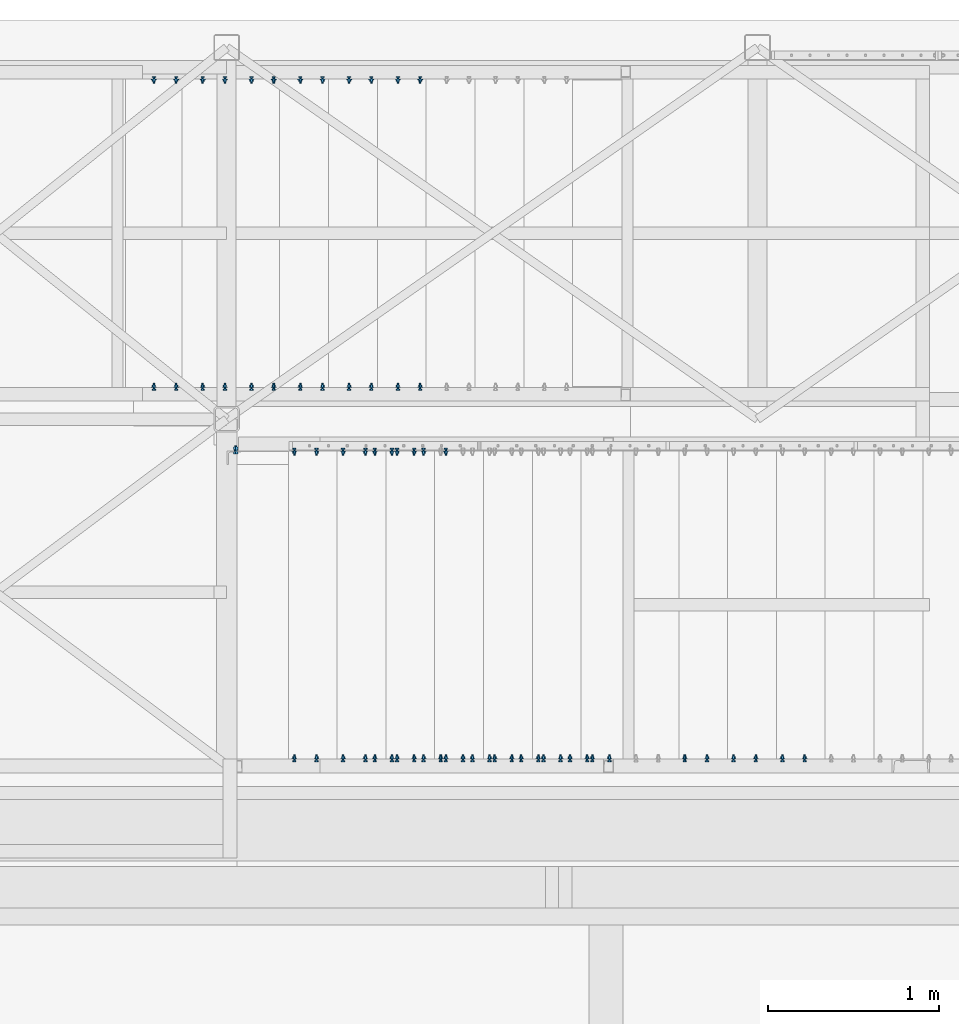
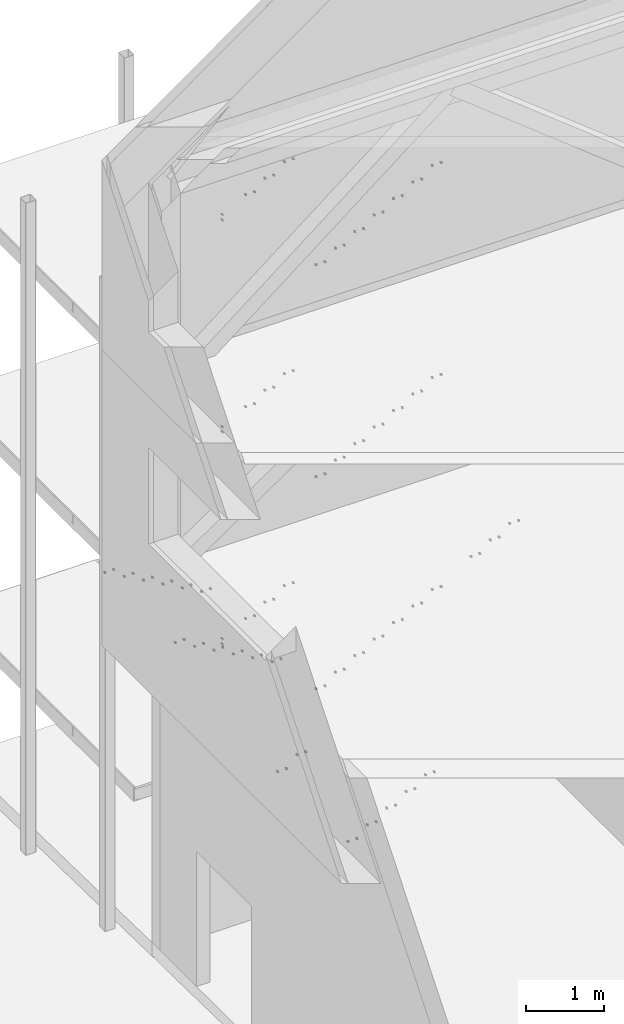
# One storey, part 74 of 78: 55 mechanical fasteners, 10 elements without a shape of their own.
"""IFC2X3 building model written with IfcOpenShell, lengths in millimetres."""

from ifc_helpers import new_model, si_unit, frame, origin_with_axes, origin_2d_with_axis, place, context, subcontext, project, spatial, polyline, circle, outline, extrude, source, transform, mapped, material, type_object, element, aggregate, save


model = new_model("IFC2X3")

# Units and contexts
model_context = context("Model", 3, precision=1e-05, world=origin_with_axes())
body_context = subcontext(model_context, "Body", "Model", "MODEL_VIEW")
ifc_project = project(units=[si_unit("LENGTHUNIT", "METRE", prefix="MILLI"), si_unit("AREAUNIT", "SQUARE_METRE"), si_unit("VOLUMEUNIT", "CUBIC_METRE"), si_unit("MASSUNIT", "GRAM", prefix="KILO"), si_unit("TIMEUNIT", "SECOND"), si_unit("PLANEANGLEUNIT", "RADIAN"), si_unit("SOLIDANGLEUNIT", "STERADIAN"), si_unit("THERMODYNAMICTEMPERATUREUNIT", "DEGREE_CELSIUS"), si_unit("LUMINOUSINTENSITYUNIT", "LUMEN")], contexts=[model_context])

# Site, building, storey
site_placement = place(None, origin_with_axes())
site = spatial("IfcSite", under=ifc_project, at=site_placement, Name="Site", CompositionType="ELEMENT")
building_placement = place(site_placement, origin_with_axes())
building = spatial("IfcBuilding", under=site, at=building_placement, Name="Undefined", CompositionType="ELEMENT")
storey_placement = place(building_placement, origin_with_axes())
storey = spatial("IfcBuildingStorey", under=building, at=storey_placement, Name="Undefined", CompositionType="ELEMENT", Elevation=0.0)

# Assembly, mechanical fastener
assembly_1_placement = place(storey_placement, origin_with_axes())
assembly_1 = element("IfcElementAssembly", 1, at=assembly_1_placement, inside=storey, AssemblyPlace="NOTDEFINED", PredefinedType="RIGID_FRAME")
ifc_material_1 = material(Name="8.8")
mechanical_fastener_type = type_object("IfcMechanicalFastenerType", Name="Bolt assembly")
shared_shape_1 = source(origin_with_axes(), body_context, "Body", "SweptSolid", [
    extrude(circle(Radius=9.0, at=origin_2d_with_axis()), frame((0.0, -7.89999999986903, 0.0), z_axis=(0.0, 1.0, 0.0), x_axis=(1.0, 0.0, 0.0)), (0.0, 0.0, 1.0), 8.0),
    extrude(circle(Radius=9.0, at=origin_2d_with_axis()), frame((0.0, -0.0999999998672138, 0.0), z_axis=(0.0, 1.0, 0.0), x_axis=(1.0, 0.0, 0.0)), (0.0, 0.0, 1.0), 9.1),
    extrude(outline(polyline([(13.85640646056, 0.0), (6.92820323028, 12.0000000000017), (-6.92820323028, 12.0000000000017), (-13.85640646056, 0.0), (-6.92820323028, -12.0000000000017), (6.92820323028, -12.0000000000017), (13.85640646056, 0.0)])), frame((0.0, -17.999999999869, 0.0), z_axis=(0.0, 1.0, 0.0), x_axis=(1.0, 0.0, 0.0)), (0.0, 0.0, 1.0), 10.0),
    extrude(circle(Radius=8.0, at=origin_2d_with_axis()), frame((0.0, -7.99999999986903, 0.0), z_axis=(0.0, 1.0, 0.0), x_axis=(1.0, 0.0, 0.0)), (0.0, 0.0, 1.0), 40.0),
    extrude(outline(polyline([(13.85640646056, 0.0), (6.92820323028, 12.0000000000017), (-6.92820323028, 12.0000000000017), (-13.85640646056, 0.0), (-6.92820323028, -12.0000000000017), (6.92820323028, -12.0000000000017), (13.85640646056, 0.0)])), frame((0.0, 9.0, 0.0), z_axis=(0.0, 1.0, 0.0), x_axis=(1.0, 0.0, 0.0)), (0.0, 0.0, 1.0), 14.8),
])
mechanical_fastener_1_placement = place(assembly_1_placement, frame((-4698.33000109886, 30562.9999998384, 150000.040000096), z_axis=(1.0, 0.0, 0.0), x_axis=(0.0, 0.0, -1.0)))
mechanical_fastener_1 = element("IfcMechanicalFastener", 2, at=mechanical_fastener_1_placement, type_object=mechanical_fastener_type, material=ifc_material_1, Name="Bolt assembly", NominalDiameter=16.0, NominalLength=40.0, context=body_context, shape_type="MappedRepresentation", body=[
    mapped(shared_shape_1, transform((0.0, 0.0, 50.0))),
    mapped(shared_shape_1, transform((80.0, 0.0, 50.0))),
])

assembly_2_placement = place(storey_placement, origin_with_axes())
assembly_2 = element("IfcElementAssembly", 3, at=assembly_2_placement, inside=storey, AssemblyPlace="NOTDEFINED", PredefinedType="RIGID_FRAME")
mechanical_fastener_2_placement = place(assembly_2_placement, frame((-4698.3300010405, 30562.9999998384, 153300.040000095), z_axis=(1.0, 0.0, 0.0), x_axis=(0.0, 0.0, -1.0)))
mechanical_fastener_2 = element("IfcMechanicalFastener", 4, at=mechanical_fastener_2_placement, type_object=mechanical_fastener_type, material=ifc_material_1, Name="Bolt assembly", NominalDiameter=16.0, NominalLength=40.0, context=body_context, shape_type="MappedRepresentation", body=[
    mapped(shared_shape_1, transform((0.0, 0.0, 50.0))),
    mapped(shared_shape_1, transform((80.0, 0.0, 50.0))),
])

assembly_3_placement = place(storey_placement, origin_with_axes())
assembly_3 = element("IfcElementAssembly", 5, at=assembly_3_placement, inside=storey, AssemblyPlace="NOTDEFINED", PredefinedType="RIGID_FRAME")
mechanical_fastener_3_placement = place(assembly_3_placement, frame((-4698.33000105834, 30562.9999998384, 156600.040000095), z_axis=(1.0, 0.0, 0.0), x_axis=(0.0, 0.0, -1.0)))
mechanical_fastener_3 = element("IfcMechanicalFastener", 6, at=mechanical_fastener_3_placement, type_object=mechanical_fastener_type, material=ifc_material_1, Name="Bolt assembly", NominalDiameter=16.0, NominalLength=40.0, context=body_context, shape_type="MappedRepresentation", body=[
    mapped(shared_shape_1, transform((0.0, 0.0, 50.0))),
    mapped(shared_shape_1, transform((80.0, 0.0, 50.0))),
])

assembly_4_placement = place(storey_placement, origin_with_axes())
assembly_4 = element("IfcElementAssembly", 7, at=assembly_4_placement, inside=storey, AssemblyPlace="NOTDEFINED", PredefinedType="RIGID_FRAME")
ifc_material_2 = material(Name="6.8")
shared_shape_2 = source(origin_with_axes(), body_context, "Body", "SweptSolid", [
    extrude(circle(Radius=6.0, at=origin_2d_with_axis()), frame((0.0, -9.00000002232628, 0.0), z_axis=(0.0, 1.0, 0.0), x_axis=(1.0, 0.0, 0.0)), (0.0, 0.0, 1.0), 9.1),
    extrude(outline(polyline([(10.96965511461, 0.0), (5.484827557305, 9.50000000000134), (-5.484827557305, 9.50000000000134), (-10.96965511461, 0.0), (-5.484827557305, -9.50000000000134), (5.484827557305, -9.50000000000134), (10.96965511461, 0.0)])), frame((0.0, -17.0000000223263, 0.0), z_axis=(0.0, 1.0, 0.0), x_axis=(1.0, 0.0, 0.0)), (0.0, 0.0, 1.0), 8.0),
    extrude(circle(Radius=6.0, at=origin_2d_with_axis()), frame((0.0, -9.00000002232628, 0.0), z_axis=(0.0, 1.0, 0.0), x_axis=(1.0, 0.0, 0.0)), (0.0, 0.0, 1.0), 35.0),
    extrude(circle(Radius=15.5, at=origin_2d_with_axis()), frame((0.0, 0.0, 0.0), z_axis=(0.0, 1.0, 0.0), x_axis=(1.0, 0.0, 0.0)), (0.0, 0.0, 1.0), 3.2),
    extrude(outline(polyline([(10.39230484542, 0.0), (5.19615242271, 9.00000000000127), (-5.19615242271, 9.00000000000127), (-10.39230484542, 0.0), (-5.19615242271, -9.00000000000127), (5.19615242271, -9.00000000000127), (10.39230484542, 0.0)])), frame((0.0, 3.20000004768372, 0.0), z_axis=(0.0, 1.0, 0.0), x_axis=(1.0, 0.0, 0.0)), (0.0, 0.0, 1.0), 10.8),
])
mechanical_fastener_4_placement = place(assembly_4_placement, frame((-2696.42999989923, 28762.9999999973, 148290.540000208), z_axis=(0.0, 0.0, 1.0), x_axis=(1.0, 0.0, 0.0)))
mechanical_fastener_4 = element("IfcMechanicalFastener", 8, at=mechanical_fastener_4_placement, type_object=mechanical_fastener_type, material=ifc_material_2, Name="Bolt assembly", NominalDiameter=12.0, NominalLength=35.0, context=body_context, shape_type="MappedRepresentation", body=[
    mapped(shared_shape_2, transform((0.0, 0.0, 0.0))),
    mapped(shared_shape_2, transform((130.0, 0.0, 0.0))),
])

assembly_5_placement = place(storey_placement, origin_with_axes())
assembly_5 = element("IfcElementAssembly", 9, at=assembly_5_placement, inside=storey, AssemblyPlace="NOTDEFINED", PredefinedType="RIGID_FRAME")
mechanical_fastener_5_placement = place(assembly_5_placement, frame((-4996.43000013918, 30933.000000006, 149885.540000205), z_axis=(0.0, 0.0, -1.0), x_axis=(-1.0, 0.0, 0.0)))
mechanical_fastener_5 = element("IfcMechanicalFastener", 10, at=mechanical_fastener_5_placement, type_object=mechanical_fastener_type, material=ifc_material_2, Name="Bolt assembly", NominalDiameter=12.0, NominalLength=35.0, context=body_context, shape_type="MappedRepresentation", body=[
    mapped(shared_shape_2, transform((0.0, 0.0, 0.0))),
    mapped(shared_shape_2, transform((130.0, 0.0, 0.0))),
])

assembly_6_placement = place(storey_placement, origin_with_axes())
assembly_6 = element("IfcElementAssembly", 11, at=assembly_6_placement, inside=storey, AssemblyPlace="NOTDEFINED", PredefinedType="RIGID_FRAME")
mechanical_fastener_6_placement = place(assembly_6_placement, frame((-4996.43000014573, 32733.000000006, 149885.540000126), z_axis=(0.0, 0.0, 1.0), x_axis=(-1.0, 0.0, 0.0)))
mechanical_fastener_6 = element("IfcMechanicalFastener", 12, at=mechanical_fastener_6_placement, type_object=mechanical_fastener_type, material=ifc_material_2, Name="Bolt assembly", NominalDiameter=12.0, NominalLength=35.0, context=body_context, shape_type="MappedRepresentation", body=[
    mapped(shared_shape_2, transform((0.0, 0.0, 0.0))),
    mapped(shared_shape_2, transform((130.0, 0.0, 0.0))),
])

# Mechanical fastener
mechanical_fastener_7_placement = place(assembly_4_placement, frame((-2981.42999990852, 28762.9999999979, 148131.040000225), z_axis=(0.0, 0.0, 1.0), x_axis=(1.0, 0.0, 0.0)))
mechanical_fastener_7 = element("IfcMechanicalFastener", 13, at=mechanical_fastener_7_placement, type_object=mechanical_fastener_type, material=ifc_material_2, Name="Bolt assembly", NominalDiameter=12.0, NominalLength=35.0, context=body_context, shape_type="MappedRepresentation", body=[
    mapped(shared_shape_2, transform((0.0, 0.0, 0.0))),
    mapped(shared_shape_2, transform((130.0, 0.0, 0.0))),
])

mechanical_fastener_8_placement = place(assembly_5_placement, frame((-4711.4300001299, 30933.0000000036, 149726.040000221), z_axis=(0.0, 0.0, -1.0), x_axis=(-1.0, 0.0, 0.0)))
mechanical_fastener_8 = element("IfcMechanicalFastener", 14, at=mechanical_fastener_8_placement, type_object=mechanical_fastener_type, material=ifc_material_2, Name="Bolt assembly", NominalDiameter=12.0, NominalLength=35.0, context=body_context, shape_type="MappedRepresentation", body=[
    mapped(shared_shape_2, transform((0.0, 0.0, 0.0))),
    mapped(shared_shape_2, transform((130.0, 0.0, 0.0))),
])

mechanical_fastener_9_placement = place(assembly_6_placement, frame((-4711.43000013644, 32733.0000000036, 149726.040000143), z_axis=(0.0, 0.0, 1.0), x_axis=(-1.0, 0.0, 0.0)))
mechanical_fastener_9 = element("IfcMechanicalFastener", 15, at=mechanical_fastener_9_placement, type_object=mechanical_fastener_type, material=ifc_material_2, Name="Bolt assembly", NominalDiameter=12.0, NominalLength=35.0, context=body_context, shape_type="MappedRepresentation", body=[
    mapped(shared_shape_2, transform((0.0, 0.0, 0.0))),
    mapped(shared_shape_2, transform((130.0, 0.0, 0.0))),
])

shared_shape_3 = source(origin_with_axes(), body_context, "Body", "SweptSolid", [
    extrude(circle(Radius=6.0, at=origin_2d_with_axis()), frame((0.0, -9.00000002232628, 0.0), z_axis=(0.0, 1.0, 0.0), x_axis=(1.0, 0.0, 0.0)), (0.0, 0.0, 1.0), 9.1),
    extrude(outline(polyline([(10.96965511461, 0.0), (5.484827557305, 9.50000000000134), (-5.484827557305, 9.50000000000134), (-10.96965511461, 0.0), (-5.484827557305, -9.50000000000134), (5.484827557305, -9.50000000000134), (10.96965511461, 0.0)])), frame((0.0, -17.0000000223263, 0.0), z_axis=(0.0, 1.0, 0.0), x_axis=(1.0, 0.0, 0.0)), (0.0, 0.0, 1.0), 8.0),
    extrude(circle(Radius=6.0, at=origin_2d_with_axis()), frame((0.0, -9.00000002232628, 0.0), z_axis=(0.0, 1.0, 0.0), x_axis=(1.0, 0.0, 0.0)), (0.0, 0.0, 1.0), 35.0),
    extrude(circle(Radius=15.5, at=origin_2d_with_axis()), frame((0.0, 0.0, 0.0), z_axis=(0.0, 1.0, 0.0), x_axis=(1.0, 0.0, 0.0)), (0.0, 0.0, 1.0), 3.2),
    extrude(outline(polyline([(10.39230484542, 0.0), (5.19615242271, 9.00000000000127), (-5.19615242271, 9.00000000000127), (-10.39230484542, 0.0), (-5.19615242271, -9.00000000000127), (5.19615242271, -9.00000000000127), (10.39230484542, 0.0)])), frame((0.0, 3.20000004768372, 0.0), z_axis=(0.0, 1.0, 0.0), x_axis=(1.0, 0.0, 0.0)), (0.0, 0.0, 1.0), 10.8),
])
mechanical_fastener_10_placement = place(assembly_4_placement, frame((-3266.4299999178, 28762.9999999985, 147971.540000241), z_axis=(0.0, 0.0, 1.0), x_axis=(1.0, 0.0, 0.0)))
mechanical_fastener_10 = element("IfcMechanicalFastener", 16, at=mechanical_fastener_10_placement, type_object=mechanical_fastener_type, material=ifc_material_2, Name="Bolt assembly", NominalDiameter=12.0, NominalLength=35.0, context=body_context, shape_type="MappedRepresentation", body=[
    mapped(shared_shape_3, transform((0.0, 0.0, 0.0))),
    mapped(shared_shape_3, transform((130.0, 0.0, 0.0))),
])

# Assembly, mechanical fastener
assembly_7_placement = place(storey_placement, origin_with_axes())
assembly_7 = element("IfcElementAssembly", 17, at=assembly_7_placement, inside=storey, AssemblyPlace="NOTDEFINED", PredefinedType="RIGID_FRAME")
mechanical_fastener_11_placement = place(assembly_7_placement, frame((-3551.42999992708, 30562.9999999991, 147812.040000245), z_axis=(0.0, 0.0, -1.0), x_axis=(1.0, 0.0, 0.0)))
mechanical_fastener_11 = element("IfcMechanicalFastener", 18, at=mechanical_fastener_11_placement, type_object=mechanical_fastener_type, material=ifc_material_2, Name="Bolt assembly", NominalDiameter=12.0, NominalLength=35.0, context=body_context, shape_type="MappedRepresentation", body=[
    mapped(shared_shape_3, transform((0.0, 0.0, 0.0))),
    mapped(shared_shape_3, transform((130.0, 0.0, 0.0))),
])

# Mechanical fastener
mechanical_fastener_12_placement = place(assembly_4_placement, frame((-3551.42999992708, 28762.9999999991, 147812.040000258), z_axis=(0.0, 0.0, 1.0), x_axis=(1.0, 0.0, 0.0)))
mechanical_fastener_12 = element("IfcMechanicalFastener", 19, at=mechanical_fastener_12_placement, type_object=mechanical_fastener_type, material=ifc_material_2, Name="Bolt assembly", NominalDiameter=12.0, NominalLength=35.0, context=body_context, shape_type="MappedRepresentation", body=[
    mapped(shared_shape_3, transform((0.0, 0.0, 0.0))),
    mapped(shared_shape_3, transform((130.0, 0.0, 0.0))),
])

mechanical_fastener_13_placement = place(assembly_7_placement, frame((-3836.42999993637, 30562.9999999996, 147652.540000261), z_axis=(0.0, 0.0, -1.0), x_axis=(1.0, 0.0, 0.0)))
mechanical_fastener_13 = element("IfcMechanicalFastener", 20, at=mechanical_fastener_13_placement, type_object=mechanical_fastener_type, material=ifc_material_2, Name="Bolt assembly", NominalDiameter=12.0, NominalLength=35.0, context=body_context, shape_type="MappedRepresentation", body=[
    mapped(shared_shape_3, transform((0.0, 0.0, 0.0))),
    mapped(shared_shape_3, transform((130.0, 0.0, 0.0))),
])

aggregate(assembly_7, [mechanical_fastener_11, mechanical_fastener_13])

mechanical_fastener_14_placement = place(assembly_4_placement, frame((-3836.42999993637, 28762.9999999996, 147652.540000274), z_axis=(0.0, 0.0, 1.0), x_axis=(1.0, 0.0, 0.0)))
mechanical_fastener_14 = element("IfcMechanicalFastener", 21, at=mechanical_fastener_14_placement, type_object=mechanical_fastener_type, material=ifc_material_2, Name="Bolt assembly", NominalDiameter=12.0, NominalLength=35.0, context=body_context, shape_type="MappedRepresentation", body=[
    mapped(shared_shape_3, transform((0.0, 0.0, 0.0))),
    mapped(shared_shape_3, transform((130.0, 0.0, 0.0))),
])

aggregate(assembly_4, [mechanical_fastener_4, mechanical_fastener_7, mechanical_fastener_10, mechanical_fastener_12, mechanical_fastener_14])

# Assembly, mechanical fasteners
assembly_8_placement = place(storey_placement, origin_with_axes())
assembly_8 = element("IfcElementAssembly", 22, at=assembly_8_placement, inside=storey, AssemblyPlace="NOTDEFINED", PredefinedType="RIGID_FRAME")
mechanical_fastener_15_placement = place(assembly_8_placement, frame((-1456.42999994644, 28763.0000000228, 151770.039999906), z_axis=(0.0, 0.0, 1.0), x_axis=(1.0, 0.0, 0.0)))
mechanical_fastener_15 = element("IfcMechanicalFastener", 23, at=mechanical_fastener_15_placement, type_object=mechanical_fastener_type, material=ifc_material_2, Name="Bolt assembly", NominalDiameter=12.0, NominalLength=35.0, context=body_context, shape_type="MappedRepresentation", body=[
    mapped(shared_shape_3, transform((0.0, 0.0, 0.0))),
    mapped(shared_shape_3, transform((130.0, 0.0, 0.0))),
])
mechanical_fastener_16_placement = place(assembly_8_placement, frame((-1741.42999994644, 28763.0000000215, 151612.539999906), z_axis=(0.0, 0.0, 1.0), x_axis=(1.0, 0.0, 0.0)))
mechanical_fastener_16 = element("IfcMechanicalFastener", 24, at=mechanical_fastener_16_placement, type_object=mechanical_fastener_type, material=ifc_material_2, Name="Bolt assembly", NominalDiameter=12.0, NominalLength=35.0, context=body_context, shape_type="MappedRepresentation", body=[
    mapped(shared_shape_3, transform((0.0, 0.0, 0.0))),
    mapped(shared_shape_3, transform((130.0, 0.0, 0.0))),
])
mechanical_fastener_17_placement = place(assembly_8_placement, frame((-2026.42999994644, 28763.0000000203, 151455.039999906), z_axis=(0.0, 0.0, 1.0), x_axis=(1.0, 0.0, 0.0)))
mechanical_fastener_17 = element("IfcMechanicalFastener", 25, at=mechanical_fastener_17_placement, type_object=mechanical_fastener_type, material=ifc_material_2, Name="Bolt assembly", NominalDiameter=12.0, NominalLength=35.0, context=body_context, shape_type="MappedRepresentation", body=[
    mapped(shared_shape_3, transform((0.0, 0.0, 0.0))),
    mapped(shared_shape_3, transform((130.0, 0.0, 0.0))),
])
mechanical_fastener_18_placement = place(assembly_8_placement, frame((-2596.42999994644, 28763.0000000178, 151140.039999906), z_axis=(0.0, 0.0, 1.0), x_axis=(1.0, 0.0, 0.0)))
mechanical_fastener_18 = element("IfcMechanicalFastener", 26, at=mechanical_fastener_18_placement, type_object=mechanical_fastener_type, material=ifc_material_2, Name="Bolt assembly", NominalDiameter=12.0, NominalLength=35.0, context=body_context, shape_type="MappedRepresentation", body=[
    mapped(shared_shape_3, transform((0.0, 0.0, 0.0))),
    mapped(shared_shape_3, transform((130.0, 0.0, 0.0))),
])
mechanical_fastener_19_placement = place(assembly_8_placement, frame((-2881.42999994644, 28763.0000000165, 150982.539999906), z_axis=(0.0, 0.0, 1.0), x_axis=(1.0, 0.0, 0.0)))
mechanical_fastener_19 = element("IfcMechanicalFastener", 27, at=mechanical_fastener_19_placement, type_object=mechanical_fastener_type, material=ifc_material_2, Name="Bolt assembly", NominalDiameter=12.0, NominalLength=35.0, context=body_context, shape_type="MappedRepresentation", body=[
    mapped(shared_shape_3, transform((0.0, 0.0, 0.0))),
    mapped(shared_shape_3, transform((130.0, 0.0, 0.0))),
])
mechanical_fastener_20_placement = place(assembly_8_placement, frame((-3166.42999994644, 28763.0000000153, 150825.039999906), z_axis=(0.0, 0.0, 1.0), x_axis=(1.0, 0.0, 0.0)))
mechanical_fastener_20 = element("IfcMechanicalFastener", 28, at=mechanical_fastener_20_placement, type_object=mechanical_fastener_type, material=ifc_material_2, Name="Bolt assembly", NominalDiameter=12.0, NominalLength=35.0, context=body_context, shape_type="MappedRepresentation", body=[
    mapped(shared_shape_3, transform((0.0, 0.0, 0.0))),
    mapped(shared_shape_3, transform((130.0, 0.0, 0.0))),
])
mechanical_fastener_21_placement = place(assembly_8_placement, frame((-3451.42999994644, 28763.000000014, 150667.539999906), z_axis=(0.0, 0.0, 1.0), x_axis=(1.0, 0.0, 0.0)))
mechanical_fastener_21 = element("IfcMechanicalFastener", 29, at=mechanical_fastener_21_placement, type_object=mechanical_fastener_type, material=ifc_material_2, Name="Bolt assembly", NominalDiameter=12.0, NominalLength=35.0, context=body_context, shape_type="MappedRepresentation", body=[
    mapped(shared_shape_3, transform((0.0, 0.0, 0.0))),
    mapped(shared_shape_3, transform((130.0, 0.0, 0.0))),
])

# Mechanical fastener
mechanical_fastener_22_placement = place(assembly_1_placement, frame((-3736.42999993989, 30563.0000000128, 150510.039999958), z_axis=(0.0, 0.0, -1.0), x_axis=(1.0, 0.0, 0.0)))
mechanical_fastener_22 = element("IfcMechanicalFastener", 30, at=mechanical_fastener_22_placement, type_object=mechanical_fastener_type, material=ifc_material_2, Name="Bolt assembly", NominalDiameter=12.0, NominalLength=35.0, context=body_context, shape_type="MappedRepresentation", body=[
    mapped(shared_shape_3, transform((0.0, 0.0, 0.0))),
    mapped(shared_shape_3, transform((130.0, 0.0, 0.0))),
])

mechanical_fastener_23_placement = place(assembly_8_placement, frame((-3736.42999994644, 28763.0000000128, 150510.039999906), z_axis=(0.0, 0.0, 1.0), x_axis=(1.0, 0.0, 0.0)))
mechanical_fastener_23 = element("IfcMechanicalFastener", 31, at=mechanical_fastener_23_placement, type_object=mechanical_fastener_type, material=ifc_material_2, Name="Bolt assembly", NominalDiameter=12.0, NominalLength=35.0, context=body_context, shape_type="MappedRepresentation", body=[
    mapped(shared_shape_3, transform((0.0, 0.0, 0.0))),
    mapped(shared_shape_3, transform((130.0, 0.0, 0.0))),
])

mechanical_fastener_24_placement = place(assembly_1_placement, frame((-4021.42999993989, 30563.0000000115, 150352.539999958), z_axis=(0.0, 0.0, -1.0), x_axis=(1.0, 0.0, 0.0)))
mechanical_fastener_24 = element("IfcMechanicalFastener", 32, at=mechanical_fastener_24_placement, type_object=mechanical_fastener_type, material=ifc_material_2, Name="Bolt assembly", NominalDiameter=12.0, NominalLength=35.0, context=body_context, shape_type="MappedRepresentation", body=[
    mapped(shared_shape_3, transform((0.0, 0.0, 0.0))),
    mapped(shared_shape_3, transform((130.0, 0.0, 0.0))),
])

mechanical_fastener_25_placement = place(assembly_8_placement, frame((-4021.42999994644, 28763.0000000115, 150352.539999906), z_axis=(0.0, 0.0, 1.0), x_axis=(1.0, 0.0, 0.0)))
mechanical_fastener_25 = element("IfcMechanicalFastener", 33, at=mechanical_fastener_25_placement, type_object=mechanical_fastener_type, material=ifc_material_2, Name="Bolt assembly", NominalDiameter=12.0, NominalLength=35.0, context=body_context, shape_type="MappedRepresentation", body=[
    mapped(shared_shape_3, transform((0.0, 0.0, 0.0))),
    mapped(shared_shape_3, transform((130.0, 0.0, 0.0))),
])

mechanical_fastener_26_placement = place(assembly_1_placement, frame((-4306.42999993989, 30563.0000000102, 150195.039999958), z_axis=(0.0, 0.0, -1.0), x_axis=(1.0, 0.0, 0.0)))
mechanical_fastener_26 = element("IfcMechanicalFastener", 34, at=mechanical_fastener_26_placement, type_object=mechanical_fastener_type, material=ifc_material_2, Name="Bolt assembly", NominalDiameter=12.0, NominalLength=35.0, context=body_context, shape_type="MappedRepresentation", body=[
    mapped(shared_shape_3, transform((0.0, 0.0, 0.0))),
    mapped(shared_shape_3, transform((130.0, 0.0, 0.0))),
])

aggregate(assembly_1, [mechanical_fastener_1, mechanical_fastener_22, mechanical_fastener_24, mechanical_fastener_26])

mechanical_fastener_27_placement = place(assembly_8_placement, frame((-4306.42999994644, 28763.0000000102, 150195.039999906), z_axis=(0.0, 0.0, 1.0), x_axis=(1.0, 0.0, 0.0)))
mechanical_fastener_27 = element("IfcMechanicalFastener", 35, at=mechanical_fastener_27_placement, type_object=mechanical_fastener_type, material=ifc_material_2, Name="Bolt assembly", NominalDiameter=12.0, NominalLength=35.0, context=body_context, shape_type="MappedRepresentation", body=[
    mapped(shared_shape_3, transform((0.0, 0.0, 0.0))),
    mapped(shared_shape_3, transform((130.0, 0.0, 0.0))),
])

aggregate(assembly_8, [mechanical_fastener_15, mechanical_fastener_16, mechanical_fastener_17, mechanical_fastener_18, mechanical_fastener_19, mechanical_fastener_20, mechanical_fastener_21, mechanical_fastener_23, mechanical_fastener_25, mechanical_fastener_27])

mechanical_fastener_28_placement = place(assembly_5_placement, frame((-3571.43000009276, 30932.9999999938, 149088.040000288), z_axis=(0.0, 0.0, -1.0), x_axis=(-1.0, 0.0, 0.0)))
mechanical_fastener_28 = element("IfcMechanicalFastener", 36, at=mechanical_fastener_28_placement, type_object=mechanical_fastener_type, material=ifc_material_2, Name="Bolt assembly", NominalDiameter=12.0, NominalLength=35.0, context=body_context, shape_type="MappedRepresentation", body=[
    mapped(shared_shape_3, transform((0.0, 0.0, 0.0))),
    mapped(shared_shape_3, transform((130.0, 0.0, 0.0))),
])

mechanical_fastener_29_placement = place(assembly_6_placement, frame((-3571.43000009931, 32732.9999999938, 149088.040000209), z_axis=(0.0, 0.0, 1.0), x_axis=(-1.0, 0.0, 0.0)))
mechanical_fastener_29 = element("IfcMechanicalFastener", 37, at=mechanical_fastener_29_placement, type_object=mechanical_fastener_type, material=ifc_material_2, Name="Bolt assembly", NominalDiameter=12.0, NominalLength=35.0, context=body_context, shape_type="MappedRepresentation", body=[
    mapped(shared_shape_3, transform((0.0, 0.0, 0.0))),
    mapped(shared_shape_3, transform((130.0, 0.0, 0.0))),
])

mechanical_fastener_30_placement = place(assembly_5_placement, frame((-3856.43000010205, 30932.9999999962, 149247.540000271), z_axis=(0.0, 0.0, -1.0), x_axis=(-1.0, 0.0, 0.0)))
mechanical_fastener_30 = element("IfcMechanicalFastener", 38, at=mechanical_fastener_30_placement, type_object=mechanical_fastener_type, material=ifc_material_2, Name="Bolt assembly", NominalDiameter=12.0, NominalLength=35.0, context=body_context, shape_type="MappedRepresentation", body=[
    mapped(shared_shape_3, transform((0.0, 0.0, 0.0))),
    mapped(shared_shape_3, transform((130.0, 0.0, 0.0))),
])

mechanical_fastener_31_placement = place(assembly_6_placement, frame((-3856.43000010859, 32732.9999999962, 149247.540000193), z_axis=(0.0, 0.0, 1.0), x_axis=(-1.0, 0.0, 0.0)))
mechanical_fastener_31 = element("IfcMechanicalFastener", 39, at=mechanical_fastener_31_placement, type_object=mechanical_fastener_type, material=ifc_material_2, Name="Bolt assembly", NominalDiameter=12.0, NominalLength=35.0, context=body_context, shape_type="MappedRepresentation", body=[
    mapped(shared_shape_3, transform((0.0, 0.0, 0.0))),
    mapped(shared_shape_3, transform((130.0, 0.0, 0.0))),
])

mechanical_fastener_32_placement = place(assembly_5_placement, frame((-4141.43000011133, 30932.9999999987, 149407.040000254), z_axis=(0.0, 0.0, -1.0), x_axis=(-1.0, 0.0, 0.0)))
mechanical_fastener_32 = element("IfcMechanicalFastener", 40, at=mechanical_fastener_32_placement, type_object=mechanical_fastener_type, material=ifc_material_2, Name="Bolt assembly", NominalDiameter=12.0, NominalLength=35.0, context=body_context, shape_type="MappedRepresentation", body=[
    mapped(shared_shape_3, transform((0.0, 0.0, 0.0))),
    mapped(shared_shape_3, transform((130.0, 0.0, 0.0))),
])

mechanical_fastener_33_placement = place(assembly_6_placement, frame((-4141.43000011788, 32732.9999999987, 149407.040000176), z_axis=(0.0, 0.0, 1.0), x_axis=(-1.0, 0.0, 0.0)))
mechanical_fastener_33 = element("IfcMechanicalFastener", 41, at=mechanical_fastener_33_placement, type_object=mechanical_fastener_type, material=ifc_material_2, Name="Bolt assembly", NominalDiameter=12.0, NominalLength=35.0, context=body_context, shape_type="MappedRepresentation", body=[
    mapped(shared_shape_3, transform((0.0, 0.0, 0.0))),
    mapped(shared_shape_3, transform((130.0, 0.0, 0.0))),
])

mechanical_fastener_34_placement = place(assembly_5_placement, frame((-4426.43000012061, 30933.0000000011, 149566.540000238), z_axis=(0.0, 0.0, -1.0), x_axis=(-1.0, 0.0, 0.0)))
mechanical_fastener_34 = element("IfcMechanicalFastener", 42, at=mechanical_fastener_34_placement, type_object=mechanical_fastener_type, material=ifc_material_2, Name="Bolt assembly", NominalDiameter=12.0, NominalLength=35.0, context=body_context, shape_type="MappedRepresentation", body=[
    mapped(shared_shape_3, transform((0.0, 0.0, 0.0))),
    mapped(shared_shape_3, transform((130.0, 0.0, 0.0))),
])

aggregate(assembly_5, [mechanical_fastener_5, mechanical_fastener_8, mechanical_fastener_28, mechanical_fastener_30, mechanical_fastener_32, mechanical_fastener_34])

mechanical_fastener_35_placement = place(assembly_6_placement, frame((-4426.43000012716, 32733.0000000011, 149566.540000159), z_axis=(0.0, 0.0, 1.0), x_axis=(-1.0, 0.0, 0.0)))
mechanical_fastener_35 = element("IfcMechanicalFastener", 43, at=mechanical_fastener_35_placement, type_object=mechanical_fastener_type, material=ifc_material_2, Name="Bolt assembly", NominalDiameter=12.0, NominalLength=35.0, context=body_context, shape_type="MappedRepresentation", body=[
    mapped(shared_shape_3, transform((0.0, 0.0, 0.0))),
    mapped(shared_shape_3, transform((130.0, 0.0, 0.0))),
])

aggregate(assembly_6, [mechanical_fastener_6, mechanical_fastener_9, mechanical_fastener_29, mechanical_fastener_31, mechanical_fastener_33, mechanical_fastener_35])

# Assembly, mechanical fasteners
assembly_9_placement = place(storey_placement, origin_with_axes())
assembly_9 = element("IfcElementAssembly", 44, at=assembly_9_placement, inside=storey, AssemblyPlace="NOTDEFINED", PredefinedType="RIGID_FRAME")
mechanical_fastener_36_placement = place(assembly_9_placement, frame((-2596.42999994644, 28763.0000000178, 154440.039999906), z_axis=(0.0, 0.0, 1.0), x_axis=(1.0, 0.0, 0.0)))
mechanical_fastener_36 = element("IfcMechanicalFastener", 45, at=mechanical_fastener_36_placement, type_object=mechanical_fastener_type, material=ifc_material_2, Name="Bolt assembly", NominalDiameter=12.0, NominalLength=35.0, context=body_context, shape_type="MappedRepresentation", body=[
    mapped(shared_shape_3, transform((0.0, 0.0, 0.0))),
    mapped(shared_shape_3, transform((130.0, 0.0, 0.0))),
])
mechanical_fastener_37_placement = place(assembly_9_placement, frame((-2881.42999994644, 28763.0000000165, 154282.539999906), z_axis=(0.0, 0.0, 1.0), x_axis=(1.0, 0.0, 0.0)))
mechanical_fastener_37 = element("IfcMechanicalFastener", 46, at=mechanical_fastener_37_placement, type_object=mechanical_fastener_type, material=ifc_material_2, Name="Bolt assembly", NominalDiameter=12.0, NominalLength=35.0, context=body_context, shape_type="MappedRepresentation", body=[
    mapped(shared_shape_3, transform((0.0, 0.0, 0.0))),
    mapped(shared_shape_3, transform((130.0, 0.0, 0.0))),
])
mechanical_fastener_38_placement = place(assembly_9_placement, frame((-3166.42999994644, 28763.0000000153, 154125.039999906), z_axis=(0.0, 0.0, 1.0), x_axis=(1.0, 0.0, 0.0)))
mechanical_fastener_38 = element("IfcMechanicalFastener", 47, at=mechanical_fastener_38_placement, type_object=mechanical_fastener_type, material=ifc_material_2, Name="Bolt assembly", NominalDiameter=12.0, NominalLength=35.0, context=body_context, shape_type="MappedRepresentation", body=[
    mapped(shared_shape_3, transform((0.0, 0.0, 0.0))),
    mapped(shared_shape_3, transform((130.0, 0.0, 0.0))),
])
mechanical_fastener_39_placement = place(assembly_9_placement, frame((-3451.42999994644, 28763.000000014, 153967.539999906), z_axis=(0.0, 0.0, 1.0), x_axis=(1.0, 0.0, 0.0)))
mechanical_fastener_39 = element("IfcMechanicalFastener", 48, at=mechanical_fastener_39_placement, type_object=mechanical_fastener_type, material=ifc_material_2, Name="Bolt assembly", NominalDiameter=12.0, NominalLength=35.0, context=body_context, shape_type="MappedRepresentation", body=[
    mapped(shared_shape_3, transform((0.0, 0.0, 0.0))),
    mapped(shared_shape_3, transform((130.0, 0.0, 0.0))),
])

# Mechanical fastener
mechanical_fastener_40_placement = place(assembly_2_placement, frame((-3736.42999993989, 30563.0000000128, 153810.039999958), z_axis=(0.0, 0.0, -1.0), x_axis=(1.0, 0.0, 0.0)))
mechanical_fastener_40 = element("IfcMechanicalFastener", 49, at=mechanical_fastener_40_placement, type_object=mechanical_fastener_type, material=ifc_material_2, Name="Bolt assembly", NominalDiameter=12.0, NominalLength=35.0, context=body_context, shape_type="MappedRepresentation", body=[
    mapped(shared_shape_3, transform((0.0, 0.0, 0.0))),
    mapped(shared_shape_3, transform((130.0, 0.0, 0.0))),
])

mechanical_fastener_41_placement = place(assembly_9_placement, frame((-3736.42999994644, 28763.0000000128, 153810.039999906), z_axis=(0.0, 0.0, 1.0), x_axis=(1.0, 0.0, 0.0)))
mechanical_fastener_41 = element("IfcMechanicalFastener", 50, at=mechanical_fastener_41_placement, type_object=mechanical_fastener_type, material=ifc_material_2, Name="Bolt assembly", NominalDiameter=12.0, NominalLength=35.0, context=body_context, shape_type="MappedRepresentation", body=[
    mapped(shared_shape_3, transform((0.0, 0.0, 0.0))),
    mapped(shared_shape_3, transform((130.0, 0.0, 0.0))),
])

mechanical_fastener_42_placement = place(assembly_2_placement, frame((-4021.42999993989, 30563.0000000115, 153652.539999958), z_axis=(0.0, 0.0, -1.0), x_axis=(1.0, 0.0, 0.0)))
mechanical_fastener_42 = element("IfcMechanicalFastener", 51, at=mechanical_fastener_42_placement, type_object=mechanical_fastener_type, material=ifc_material_2, Name="Bolt assembly", NominalDiameter=12.0, NominalLength=35.0, context=body_context, shape_type="MappedRepresentation", body=[
    mapped(shared_shape_3, transform((0.0, 0.0, 0.0))),
    mapped(shared_shape_3, transform((130.0, 0.0, 0.0))),
])

mechanical_fastener_43_placement = place(assembly_9_placement, frame((-4021.42999994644, 28763.0000000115, 153652.539999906), z_axis=(0.0, 0.0, 1.0), x_axis=(1.0, 0.0, 0.0)))
mechanical_fastener_43 = element("IfcMechanicalFastener", 52, at=mechanical_fastener_43_placement, type_object=mechanical_fastener_type, material=ifc_material_2, Name="Bolt assembly", NominalDiameter=12.0, NominalLength=35.0, context=body_context, shape_type="MappedRepresentation", body=[
    mapped(shared_shape_3, transform((0.0, 0.0, 0.0))),
    mapped(shared_shape_3, transform((130.0, 0.0, 0.0))),
])

mechanical_fastener_44_placement = place(assembly_2_placement, frame((-4306.42999993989, 30563.0000000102, 153495.039999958), z_axis=(0.0, 0.0, -1.0), x_axis=(1.0, 0.0, 0.0)))
mechanical_fastener_44 = element("IfcMechanicalFastener", 53, at=mechanical_fastener_44_placement, type_object=mechanical_fastener_type, material=ifc_material_2, Name="Bolt assembly", NominalDiameter=12.0, NominalLength=35.0, context=body_context, shape_type="MappedRepresentation", body=[
    mapped(shared_shape_3, transform((0.0, 0.0, 0.0))),
    mapped(shared_shape_3, transform((130.0, 0.0, 0.0))),
])

aggregate(assembly_2, [mechanical_fastener_2, mechanical_fastener_40, mechanical_fastener_42, mechanical_fastener_44])

mechanical_fastener_45_placement = place(assembly_9_placement, frame((-4306.42999994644, 28763.0000000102, 153495.039999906), z_axis=(0.0, 0.0, 1.0), x_axis=(1.0, 0.0, 0.0)))
mechanical_fastener_45 = element("IfcMechanicalFastener", 54, at=mechanical_fastener_45_placement, type_object=mechanical_fastener_type, material=ifc_material_2, Name="Bolt assembly", NominalDiameter=12.0, NominalLength=35.0, context=body_context, shape_type="MappedRepresentation", body=[
    mapped(shared_shape_3, transform((0.0, 0.0, 0.0))),
    mapped(shared_shape_3, transform((130.0, 0.0, 0.0))),
])

aggregate(assembly_9, [mechanical_fastener_36, mechanical_fastener_37, mechanical_fastener_38, mechanical_fastener_39, mechanical_fastener_41, mechanical_fastener_43, mechanical_fastener_45])

# Assembly, mechanical fasteners
assembly_10_placement = place(storey_placement, origin_with_axes())
assembly_10 = element("IfcElementAssembly", 55, at=assembly_10_placement, inside=storey, AssemblyPlace="NOTDEFINED", PredefinedType="RIGID_FRAME")
mechanical_fastener_46_placement = place(assembly_10_placement, frame((-2596.42999994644, 28763.0000000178, 157740.039999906), z_axis=(0.0, 0.0, 1.0), x_axis=(1.0, 0.0, 0.0)))
mechanical_fastener_46 = element("IfcMechanicalFastener", 56, at=mechanical_fastener_46_placement, type_object=mechanical_fastener_type, material=ifc_material_2, Name="Bolt assembly", NominalDiameter=12.0, NominalLength=35.0, context=body_context, shape_type="MappedRepresentation", body=[
    mapped(shared_shape_3, transform((0.0, 0.0, 0.0))),
    mapped(shared_shape_3, transform((130.0, 0.0, 0.0))),
])
mechanical_fastener_47_placement = place(assembly_10_placement, frame((-2881.42999994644, 28763.0000000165, 157582.539999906), z_axis=(0.0, 0.0, 1.0), x_axis=(1.0, 0.0, 0.0)))
mechanical_fastener_47 = element("IfcMechanicalFastener", 57, at=mechanical_fastener_47_placement, type_object=mechanical_fastener_type, material=ifc_material_2, Name="Bolt assembly", NominalDiameter=12.0, NominalLength=35.0, context=body_context, shape_type="MappedRepresentation", body=[
    mapped(shared_shape_3, transform((0.0, 0.0, 0.0))),
    mapped(shared_shape_3, transform((130.0, 0.0, 0.0))),
])
mechanical_fastener_48_placement = place(assembly_10_placement, frame((-3166.42999994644, 28763.0000000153, 157425.039999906), z_axis=(0.0, 0.0, 1.0), x_axis=(1.0, 0.0, 0.0)))
mechanical_fastener_48 = element("IfcMechanicalFastener", 58, at=mechanical_fastener_48_placement, type_object=mechanical_fastener_type, material=ifc_material_2, Name="Bolt assembly", NominalDiameter=12.0, NominalLength=35.0, context=body_context, shape_type="MappedRepresentation", body=[
    mapped(shared_shape_3, transform((0.0, 0.0, 0.0))),
    mapped(shared_shape_3, transform((130.0, 0.0, 0.0))),
])
mechanical_fastener_49_placement = place(assembly_10_placement, frame((-3451.42999994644, 28763.000000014, 157267.539999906), z_axis=(0.0, 0.0, 1.0), x_axis=(1.0, 0.0, 0.0)))
mechanical_fastener_49 = element("IfcMechanicalFastener", 59, at=mechanical_fastener_49_placement, type_object=mechanical_fastener_type, material=ifc_material_2, Name="Bolt assembly", NominalDiameter=12.0, NominalLength=35.0, context=body_context, shape_type="MappedRepresentation", body=[
    mapped(shared_shape_3, transform((0.0, 0.0, 0.0))),
    mapped(shared_shape_3, transform((130.0, 0.0, 0.0))),
])

# Mechanical fastener
mechanical_fastener_50_placement = place(assembly_3_placement, frame((-3736.42999993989, 30563.0000000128, 157110.039999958), z_axis=(0.0, 0.0, -1.0), x_axis=(1.0, 0.0, 0.0)))
mechanical_fastener_50 = element("IfcMechanicalFastener", 60, at=mechanical_fastener_50_placement, type_object=mechanical_fastener_type, material=ifc_material_2, Name="Bolt assembly", NominalDiameter=12.0, NominalLength=35.0, context=body_context, shape_type="MappedRepresentation", body=[
    mapped(shared_shape_3, transform((0.0, 0.0, 0.0))),
    mapped(shared_shape_3, transform((130.0, 0.0, 0.0))),
])

mechanical_fastener_51_placement = place(assembly_10_placement, frame((-3736.42999994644, 28763.0000000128, 157110.039999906), z_axis=(0.0, 0.0, 1.0), x_axis=(1.0, 0.0, 0.0)))
mechanical_fastener_51 = element("IfcMechanicalFastener", 61, at=mechanical_fastener_51_placement, type_object=mechanical_fastener_type, material=ifc_material_2, Name="Bolt assembly", NominalDiameter=12.0, NominalLength=35.0, context=body_context, shape_type="MappedRepresentation", body=[
    mapped(shared_shape_3, transform((0.0, 0.0, 0.0))),
    mapped(shared_shape_3, transform((130.0, 0.0, 0.0))),
])

mechanical_fastener_52_placement = place(assembly_3_placement, frame((-4021.42999993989, 30563.0000000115, 156952.539999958), z_axis=(0.0, 0.0, -1.0), x_axis=(1.0, 0.0, 0.0)))
mechanical_fastener_52 = element("IfcMechanicalFastener", 62, at=mechanical_fastener_52_placement, type_object=mechanical_fastener_type, material=ifc_material_2, Name="Bolt assembly", NominalDiameter=12.0, NominalLength=35.0, context=body_context, shape_type="MappedRepresentation", body=[
    mapped(shared_shape_3, transform((0.0, 0.0, 0.0))),
    mapped(shared_shape_3, transform((130.0, 0.0, 0.0))),
])

mechanical_fastener_53_placement = place(assembly_10_placement, frame((-4021.42999994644, 28763.0000000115, 156952.539999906), z_axis=(0.0, 0.0, 1.0), x_axis=(1.0, 0.0, 0.0)))
mechanical_fastener_53 = element("IfcMechanicalFastener", 63, at=mechanical_fastener_53_placement, type_object=mechanical_fastener_type, material=ifc_material_2, Name="Bolt assembly", NominalDiameter=12.0, NominalLength=35.0, context=body_context, shape_type="MappedRepresentation", body=[
    mapped(shared_shape_3, transform((0.0, 0.0, 0.0))),
    mapped(shared_shape_3, transform((130.0, 0.0, 0.0))),
])

mechanical_fastener_54_placement = place(assembly_3_placement, frame((-4306.42999993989, 30563.0000000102, 156795.039999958), z_axis=(0.0, 0.0, -1.0), x_axis=(1.0, 0.0, 0.0)))
mechanical_fastener_54 = element("IfcMechanicalFastener", 64, at=mechanical_fastener_54_placement, type_object=mechanical_fastener_type, material=ifc_material_2, Name="Bolt assembly", NominalDiameter=12.0, NominalLength=35.0, context=body_context, shape_type="MappedRepresentation", body=[
    mapped(shared_shape_3, transform((0.0, 0.0, 0.0))),
    mapped(shared_shape_3, transform((130.0, 0.0, 0.0))),
])

aggregate(assembly_3, [mechanical_fastener_3, mechanical_fastener_50, mechanical_fastener_52, mechanical_fastener_54])

mechanical_fastener_55_placement = place(assembly_10_placement, frame((-4306.42999994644, 28763.0000000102, 156795.039999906), z_axis=(0.0, 0.0, 1.0), x_axis=(1.0, 0.0, 0.0)))
mechanical_fastener_55 = element("IfcMechanicalFastener", 65, at=mechanical_fastener_55_placement, type_object=mechanical_fastener_type, material=ifc_material_2, Name="Bolt assembly", NominalDiameter=12.0, NominalLength=35.0, context=body_context, shape_type="MappedRepresentation", body=[
    mapped(shared_shape_3, transform((0.0, 0.0, 0.0))),
    mapped(shared_shape_3, transform((130.0, 0.0, 0.0))),
])

aggregate(assembly_10, [mechanical_fastener_46, mechanical_fastener_47, mechanical_fastener_48, mechanical_fastener_49, mechanical_fastener_51, mechanical_fastener_53, mechanical_fastener_55])

save(model, "model.ifc")
